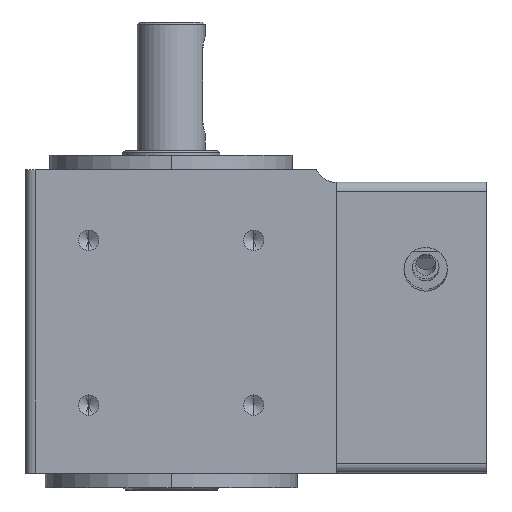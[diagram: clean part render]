
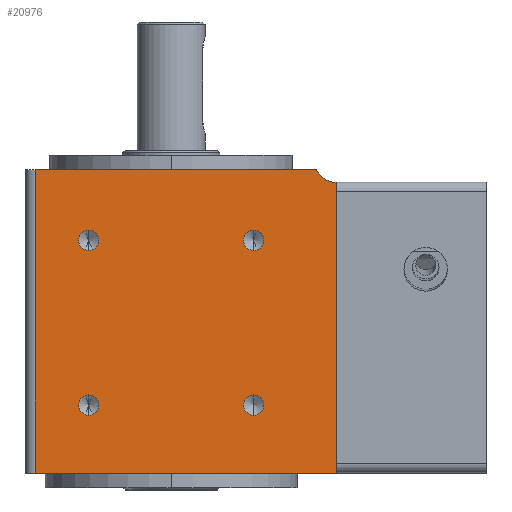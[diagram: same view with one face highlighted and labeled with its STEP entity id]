
A CAD part, left-side view. The second image highlights one B-rep face of the part: STEP entity #20976.
In plain terms, the highlighted planar face has unit normal (-1, 0, 0).
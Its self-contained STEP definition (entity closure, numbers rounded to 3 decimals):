
#74 = CARTESIAN_POINT ( 'NONE',  ( -30., 19., 48.9 ) ) ;
#111 = DIRECTION ( 'NONE',  ( -1., 0., 0. ) ) ;
#889 = EDGE_LOOP ( 'NONE', ( #24652, #14696 ) ) ;
#1030 = ORIENTED_EDGE ( 'NONE', *, *, #13711, .F. ) ;
#1588 = ORIENTED_EDGE ( 'NONE', *, *, #3912, .F. ) ;
#1617 = VERTEX_POINT ( 'NONE', #20168 ) ;
#1782 = AXIS2_PLACEMENT_3D ( 'NONE', #18567, #4956, #20848 ) ;
#1797 = DIRECTION ( 'NONE',  ( 0., 0., 1. ) ) ;
#1951 = DIRECTION ( 'NONE',  ( 0., 0., -1. ) ) ;
#2668 = CARTESIAN_POINT ( 'NONE',  ( -30., 19., 14.9 ) ) ;
#3021 = LINE ( 'NONE', #8351, #26482 ) ;
#3085 = CARTESIAN_POINT ( 'NONE',  ( -30., -15., 48.9 ) ) ;
#3183 = FACE_OUTER_BOUND ( 'NONE', #18689, .T. ) ;
#3187 = CARTESIAN_POINT ( 'NONE',  ( -30., 30., 65.5 ) ) ;
#3636 = CARTESIAN_POINT ( 'NONE',  ( -30., -15., 19.1 ) ) ;
#3754 = CIRCLE ( 'NONE', #15065, 2.1 ) ;
#3873 = FACE_BOUND ( 'NONE', #12068, .T. ) ;
#3912 = EDGE_CURVE ( 'NONE', #19943, #4538, #7137, .T. ) ;
#3945 = DIRECTION ( 'NONE',  ( 0., 1., 0. ) ) ;
#4538 = VERTEX_POINT ( 'NONE', #22186 ) ;
#4873 = CIRCLE ( 'NONE', #28420, 2.1 ) ;
#4956 = DIRECTION ( 'NONE',  ( -1., 0., 0. ) ) ;
#5030 = EDGE_LOOP ( 'NONE', ( #1030, #27759 ) ) ;
#5386 = AXIS2_PLACEMENT_3D ( 'NONE', #29027, #15381, #1797 ) ;
#5455 = CARTESIAN_POINT ( 'NONE',  ( -30., 19., 19.1 ) ) ;
#5816 = ORIENTED_EDGE ( 'NONE', *, *, #22800, .F. ) ;
#6076 = ORIENTED_EDGE ( 'NONE', *, *, #25637, .F. ) ;
#6232 = DIRECTION ( 'NONE',  ( 0., 0., -1. ) ) ;
#6319 = VECTOR ( 'NONE', #6232, 1000. ) ;
#6442 = EDGE_LOOP ( 'NONE', ( #12265, #23230 ) ) ;
#6844 = VERTEX_POINT ( 'NONE', #5455 ) ;
#6901 = DIRECTION ( 'NONE',  ( -1., 0., 0. ) ) ;
#7137 = LINE ( 'NONE', #24307, #13166 ) ;
#7238 = CIRCLE ( 'NONE', #8183, 4.5 ) ;
#7259 = CIRCLE ( 'NONE', #22862, 2.1 ) ;
#7356 = AXIS2_PLACEMENT_3D ( 'NONE', #13546, #29486, #15835 ) ;
#7708 = DIRECTION ( 'NONE',  ( -1., 0., 0. ) ) ;
#8183 = AXIS2_PLACEMENT_3D ( 'NONE', #8427, #24346, #10719 ) ;
#8351 = CARTESIAN_POINT ( 'NONE',  ( -30., -32., 65.5 ) ) ;
#8427 = CARTESIAN_POINT ( 'NONE',  ( -30., -32., 67.45 ) ) ;
#8484 = VERTEX_POINT ( 'NONE', #28921 ) ;
#9032 = CARTESIAN_POINT ( 'NONE',  ( -30., 19., 51. ) ) ;
#9199 = FACE_BOUND ( 'NONE', #5030, .T. ) ;
#10169 = EDGE_CURVE ( 'NONE', #18499, #19943, #13814, .T. ) ;
#10719 = DIRECTION ( 'NONE',  ( 0., 0., 1. ) ) ;
#10795 = CARTESIAN_POINT ( 'NONE',  ( -30., -32., 68.5 ) ) ;
#10844 = DIRECTION ( 'NONE',  ( 1., 0., 0. ) ) ;
#10951 = CARTESIAN_POINT ( 'NONE',  ( -30., 30., 68.5 ) ) ;
#11080 = AXIS2_PLACEMENT_3D ( 'NONE', #21328, #7708, #23620 ) ;
#11137 = CARTESIAN_POINT ( 'NONE',  ( -30., 19., 17. ) ) ;
#11335 = DIRECTION ( 'NONE',  ( 0., 0., 1. ) ) ;
#11661 = ORIENTED_EDGE ( 'NONE', *, *, #13921, .F. ) ;
#12068 = EDGE_LOOP ( 'NONE', ( #11661, #14264 ) ) ;
#12265 = ORIENTED_EDGE ( 'NONE', *, *, #13002, .F. ) ;
#13002 = EDGE_CURVE ( 'NONE', #20550, #8484, #4873, .T. ) ;
#13046 = PLANE ( 'NONE',  #26831 ) ;
#13166 = VECTOR ( 'NONE', #3945, 1000. ) ;
#13434 = DIRECTION ( 'NONE',  ( 0., 0., 1. ) ) ;
#13485 = EDGE_CURVE ( 'NONE', #20416, #18107, #3754, .T. ) ;
#13546 = CARTESIAN_POINT ( 'NONE',  ( -30., -15., 51. ) ) ;
#13697 = CARTESIAN_POINT ( 'NONE',  ( -30., -15., 17. ) ) ;
#13711 = EDGE_CURVE ( 'NONE', #1617, #14804, #13729, .T. ) ;
#13729 = CIRCLE ( 'NONE', #5386, 2.1 ) ;
#13814 = LINE ( 'NONE', #10795, #6319 ) ;
#13921 = EDGE_CURVE ( 'NONE', #6844, #20811, #28311, .T. ) ;
#14021 = VECTOR ( 'NONE', #1951, 1000. ) ;
#14264 = ORIENTED_EDGE ( 'NONE', *, *, #19415, .F. ) ;
#14641 = CARTESIAN_POINT ( 'NONE',  ( -30., -27.944, 65.5 ) ) ;
#14696 = ORIENTED_EDGE ( 'NONE', *, *, #29317, .F. ) ;
#14804 = VERTEX_POINT ( 'NONE', #74 ) ;
#15065 = AXIS2_PLACEMENT_3D ( 'NONE', #20521, #6901, #22813 ) ;
#15252 = FACE_BOUND ( 'NONE', #889, .T. ) ;
#15381 = DIRECTION ( 'NONE',  ( -1., 0., 0. ) ) ;
#15835 = DIRECTION ( 'NONE',  ( 0., 0., 1. ) ) ;
#15976 = DIRECTION ( 'NONE',  ( 0., 0., 1. ) ) ;
#18107 = VERTEX_POINT ( 'NONE', #3085 ) ;
#18499 = VERTEX_POINT ( 'NONE', #27834 ) ;
#18567 = CARTESIAN_POINT ( 'NONE',  ( -30., 19., 17. ) ) ;
#18689 = EDGE_LOOP ( 'NONE', ( #19169, #6076, #5816, #24440, #1588 ) ) ;
#19169 = ORIENTED_EDGE ( 'NONE', *, *, #10169, .F. ) ;
#19415 = EDGE_CURVE ( 'NONE', #20811, #6844, #23833, .T. ) ;
#19687 = VERTEX_POINT ( 'NONE', #3187 ) ;
#19943 = VERTEX_POINT ( 'NONE', #29026 ) ;
#20061 = LINE ( 'NONE', #10951, #14021 ) ;
#20168 = CARTESIAN_POINT ( 'NONE',  ( -30., 19., 53.1 ) ) ;
#20416 = VERTEX_POINT ( 'NONE', #25555 ) ;
#20521 = CARTESIAN_POINT ( 'NONE',  ( -30., -15., 51. ) ) ;
#20550 = VERTEX_POINT ( 'NONE', #3636 ) ;
#20811 = VERTEX_POINT ( 'NONE', #2668 ) ;
#20848 = DIRECTION ( 'NONE',  ( 0., 0., 1. ) ) ;
#20976 = ADVANCED_FACE ( 'NONE', ( #15252, #9199, #3873, #22753, #3183 ), #13046, .F. ) ;
#20990 = CIRCLE ( 'NONE', #7356, 2.1 ) ;
#21328 = CARTESIAN_POINT ( 'NONE',  ( -30., -15., 17. ) ) ;
#21764 = CIRCLE ( 'NONE', #11080, 2.1 ) ;
#22100 = CARTESIAN_POINT ( 'NONE',  ( -30., -32., 68.5 ) ) ;
#22186 = CARTESIAN_POINT ( 'NONE',  ( -30., 30., 3. ) ) ;
#22532 = VERTEX_POINT ( 'NONE', #14641 ) ;
#22753 = FACE_BOUND ( 'NONE', #6442, .T. ) ;
#22800 = EDGE_CURVE ( 'NONE', #19687, #22532, #3021, .T. ) ;
#22813 = DIRECTION ( 'NONE',  ( 0., 0., 1. ) ) ;
#22862 = AXIS2_PLACEMENT_3D ( 'NONE', #9032, #24961, #11335 ) ;
#23230 = ORIENTED_EDGE ( 'NONE', *, *, #26594, .F. ) ;
#23366 = EDGE_CURVE ( 'NONE', #14804, #1617, #7259, .T. ) ;
#23620 = DIRECTION ( 'NONE',  ( 0., 0., 1. ) ) ;
#23833 = CIRCLE ( 'NONE', #26041, 2.1 ) ;
#24307 = CARTESIAN_POINT ( 'NONE',  ( -30., -32., 3. ) ) ;
#24346 = DIRECTION ( 'NONE',  ( -1., 0., 0. ) ) ;
#24440 = ORIENTED_EDGE ( 'NONE', *, *, #24504, .T. ) ;
#24504 = EDGE_CURVE ( 'NONE', #19687, #4538, #20061, .T. ) ;
#24652 = ORIENTED_EDGE ( 'NONE', *, *, #13485, .F. ) ;
#24961 = DIRECTION ( 'NONE',  ( -1., 0., 0. ) ) ;
#25555 = CARTESIAN_POINT ( 'NONE',  ( -30., -15., 53.1 ) ) ;
#25637 = EDGE_CURVE ( 'NONE', #22532, #18499, #7238, .T. ) ;
#26041 = AXIS2_PLACEMENT_3D ( 'NONE', #11137, #27084, #13434 ) ;
#26482 = VECTOR ( 'NONE', #28884, 1000. ) ;
#26594 = EDGE_CURVE ( 'NONE', #8484, #20550, #21764, .T. ) ;
#26793 = DIRECTION ( 'NONE',  ( 0., 0., -1. ) ) ;
#26831 = AXIS2_PLACEMENT_3D ( 'NONE', #22100, #10844, #26793 ) ;
#27084 = DIRECTION ( 'NONE',  ( -1., 0., 0. ) ) ;
#27759 = ORIENTED_EDGE ( 'NONE', *, *, #23366, .F. ) ;
#27834 = CARTESIAN_POINT ( 'NONE',  ( -30., -32., 62.95 ) ) ;
#28311 = CIRCLE ( 'NONE', #1782, 2.1 ) ;
#28420 = AXIS2_PLACEMENT_3D ( 'NONE', #13697, #111, #15976 ) ;
#28884 = DIRECTION ( 'NONE',  ( 0., -1., 0. ) ) ;
#28921 = CARTESIAN_POINT ( 'NONE',  ( -30., -15., 14.9 ) ) ;
#29026 = CARTESIAN_POINT ( 'NONE',  ( -30., -32., 3. ) ) ;
#29027 = CARTESIAN_POINT ( 'NONE',  ( -30., 19., 51. ) ) ;
#29317 = EDGE_CURVE ( 'NONE', #18107, #20416, #20990, .T. ) ;
#29486 = DIRECTION ( 'NONE',  ( -1., 0., 0. ) ) ;
